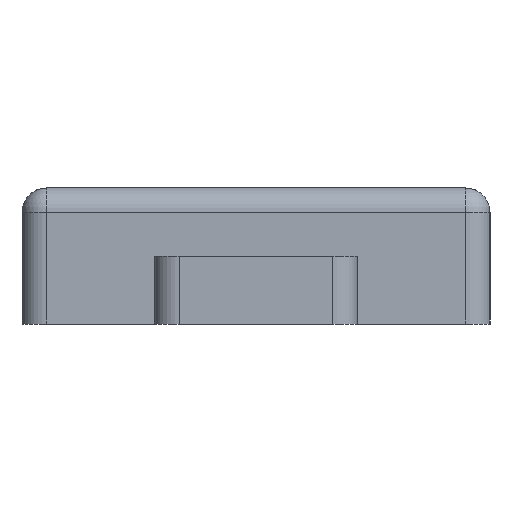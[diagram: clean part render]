
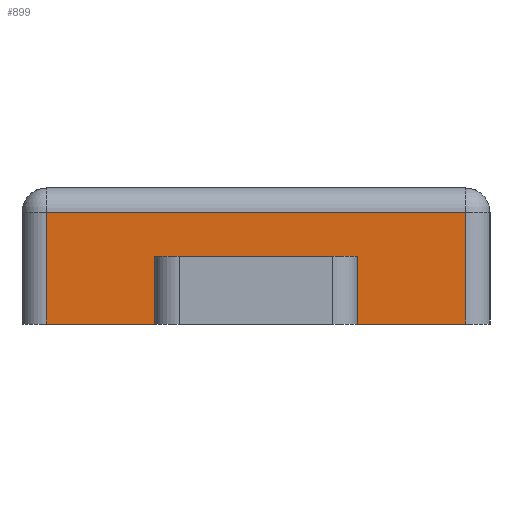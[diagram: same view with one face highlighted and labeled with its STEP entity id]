
A CAD part, left-side view. The second image highlights one B-rep face of the part: STEP entity #899.
In plain terms, the highlighted planar face has unit normal (-1, 0, 0).
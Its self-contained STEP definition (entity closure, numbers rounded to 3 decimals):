
#62 = CYLINDRICAL_SURFACE('',#63,0.6);
#63 = AXIS2_PLACEMENT_3D('',#64,#65,#66);
#64 = CARTESIAN_POINT('',(-39.25,-5.179,0.));
#65 = DIRECTION('',(0.,0.,1.));
#66 = DIRECTION('',(0.,-1.,0.));
#144 = PLANE('',#145);
#145 = AXIS2_PLACEMENT_3D('',#146,#147,#148);
#146 = CARTESIAN_POINT('',(0.,0.,0.));
#147 = DIRECTION('',(0.,0.,1.));
#148 = DIRECTION('',(1.,0.,-0.));
#161 = VERTEX_POINT('',#162);
#162 = CARTESIAN_POINT('',(-39.85,-5.179,0.));
#188 = EDGE_CURVE('',#161,#189,#191,.T.);
#189 = VERTEX_POINT('',#190);
#190 = CARTESIAN_POINT('',(-39.85,-5.179,2.76));
#191 = SURFACE_CURVE('',#192,(#196,#203),.PCURVE_S1.);
#192 = LINE('',#193,#194);
#193 = CARTESIAN_POINT('',(-39.85,-5.179,0.));
#194 = VECTOR('',#195,1.);
#195 = DIRECTION('',(0.,0.,1.));
#196 = PCURVE('',#62,#197);
#197 = DEFINITIONAL_REPRESENTATION('',(#198),#202);
#198 = LINE('',#199,#200);
#199 = CARTESIAN_POINT('',(-1.571,0.));
#200 = VECTOR('',#201,1.);
#201 = DIRECTION('',(-0.,1.));
#202 = ( GEOMETRIC_REPRESENTATION_CONTEXT(2) 
PARAMETRIC_REPRESENTATION_CONTEXT() REPRESENTATION_CONTEXT('2D SPACE',''
  ) );
#203 = PCURVE('',#204,#209);
#204 = PLANE('',#205);
#205 = AXIS2_PLACEMENT_3D('',#206,#207,#208);
#206 = CARTESIAN_POINT('',(-39.85,5.779,0.));
#207 = DIRECTION('',(1.,0.,-0.));
#208 = DIRECTION('',(0.,-1.,0.));
#209 = DEFINITIONAL_REPRESENTATION('',(#210),#214);
#210 = LINE('',#211,#212);
#211 = CARTESIAN_POINT('',(10.958,0.));
#212 = VECTOR('',#213,1.);
#213 = DIRECTION('',(0.,-1.));
#214 = ( GEOMETRIC_REPRESENTATION_CONTEXT(2) 
PARAMETRIC_REPRESENTATION_CONTEXT() REPRESENTATION_CONTEXT('2D SPACE',''
  ) );
#602 = VERTEX_POINT('',#603);
#603 = CARTESIAN_POINT('',(-39.85,5.179,0.));
#618 = CYLINDRICAL_SURFACE('',#619,0.6);
#619 = AXIS2_PLACEMENT_3D('',#620,#621,#622);
#620 = CARTESIAN_POINT('',(-39.25,5.179,0.));
#621 = DIRECTION('',(0.,0.,1.));
#622 = DIRECTION('',(-0.,1.,0.));
#630 = EDGE_CURVE('',#602,#631,#633,.T.);
#631 = VERTEX_POINT('',#632);
#632 = CARTESIAN_POINT('',(-39.85,2.5,0.));
#633 = SURFACE_CURVE('',#634,(#638,#645),.PCURVE_S1.);
#634 = LINE('',#635,#636);
#635 = CARTESIAN_POINT('',(-39.85,5.779,0.));
#636 = VECTOR('',#637,1.);
#637 = DIRECTION('',(0.,-1.,0.));
#638 = PCURVE('',#144,#639);
#639 = DEFINITIONAL_REPRESENTATION('',(#640),#644);
#640 = LINE('',#641,#642);
#641 = CARTESIAN_POINT('',(-39.85,5.779));
#642 = VECTOR('',#643,1.);
#643 = DIRECTION('',(0.,-1.));
#644 = ( GEOMETRIC_REPRESENTATION_CONTEXT(2) 
PARAMETRIC_REPRESENTATION_CONTEXT() REPRESENTATION_CONTEXT('2D SPACE',''
  ) );
#645 = PCURVE('',#204,#646);
#646 = DEFINITIONAL_REPRESENTATION('',(#647),#651);
#647 = LINE('',#648,#649);
#648 = CARTESIAN_POINT('',(0.,0.));
#649 = VECTOR('',#650,1.);
#650 = DIRECTION('',(1.,0.));
#651 = ( GEOMETRIC_REPRESENTATION_CONTEXT(2) 
PARAMETRIC_REPRESENTATION_CONTEXT() REPRESENTATION_CONTEXT('2D SPACE',''
  ) );
#669 = PLANE('',#670);
#670 = AXIS2_PLACEMENT_3D('',#671,#672,#673);
#671 = CARTESIAN_POINT('',(-38.85,2.5,0.));
#672 = DIRECTION('',(0.,-1.,0.));
#673 = DIRECTION('',(-1.,0.,0.));
#772 = VERTEX_POINT('',#773);
#773 = CARTESIAN_POINT('',(-39.85,-2.5,0.));
#787 = PLANE('',#788);
#788 = AXIS2_PLACEMENT_3D('',#789,#790,#791);
#789 = CARTESIAN_POINT('',(-42.25,-2.5,0.));
#790 = DIRECTION('',(0.,1.,0.));
#791 = DIRECTION('',(1.,0.,0.));
#799 = EDGE_CURVE('',#772,#161,#800,.T.);
#800 = SURFACE_CURVE('',#801,(#805,#812),.PCURVE_S1.);
#801 = LINE('',#802,#803);
#802 = CARTESIAN_POINT('',(-39.85,5.779,0.));
#803 = VECTOR('',#804,1.);
#804 = DIRECTION('',(0.,-1.,0.));
#805 = PCURVE('',#144,#806);
#806 = DEFINITIONAL_REPRESENTATION('',(#807),#811);
#807 = LINE('',#808,#809);
#808 = CARTESIAN_POINT('',(-39.85,5.779));
#809 = VECTOR('',#810,1.);
#810 = DIRECTION('',(0.,-1.));
#811 = ( GEOMETRIC_REPRESENTATION_CONTEXT(2) 
PARAMETRIC_REPRESENTATION_CONTEXT() REPRESENTATION_CONTEXT('2D SPACE',''
  ) );
#812 = PCURVE('',#204,#813);
#813 = DEFINITIONAL_REPRESENTATION('',(#814),#818);
#814 = LINE('',#815,#816);
#815 = CARTESIAN_POINT('',(0.,0.));
#816 = VECTOR('',#817,1.);
#817 = DIRECTION('',(1.,0.));
#818 = ( GEOMETRIC_REPRESENTATION_CONTEXT(2) 
PARAMETRIC_REPRESENTATION_CONTEXT() REPRESENTATION_CONTEXT('2D SPACE',''
  ) );
#887 = CYLINDRICAL_SURFACE('',#888,0.6);
#888 = AXIS2_PLACEMENT_3D('',#889,#890,#891);
#889 = CARTESIAN_POINT('',(-39.25,5.179,2.76));
#890 = DIRECTION('',(0.,-1.,0.));
#891 = DIRECTION('',(-1.,-0.,0.));
#899 = ADVANCED_FACE('',(#900),#204,.F.);
#900 = FACE_BOUND('',#901,.F.);
#901 = EDGE_LOOP('',(#902,#925,#946,#947,#948,#969,#995,#1014));
#902 = ORIENTED_EDGE('',*,*,#903,.T.);
#903 = EDGE_CURVE('',#602,#904,#906,.T.);
#904 = VERTEX_POINT('',#905);
#905 = CARTESIAN_POINT('',(-39.85,5.179,2.76));
#906 = SURFACE_CURVE('',#907,(#911,#918),.PCURVE_S1.);
#907 = LINE('',#908,#909);
#908 = CARTESIAN_POINT('',(-39.85,5.179,0.));
#909 = VECTOR('',#910,1.);
#910 = DIRECTION('',(0.,0.,1.));
#911 = PCURVE('',#204,#912);
#912 = DEFINITIONAL_REPRESENTATION('',(#913),#917);
#913 = LINE('',#914,#915);
#914 = CARTESIAN_POINT('',(0.6,0.));
#915 = VECTOR('',#916,1.);
#916 = DIRECTION('',(0.,-1.));
#917 = ( GEOMETRIC_REPRESENTATION_CONTEXT(2) 
PARAMETRIC_REPRESENTATION_CONTEXT() REPRESENTATION_CONTEXT('2D SPACE',''
  ) );
#918 = PCURVE('',#618,#919);
#919 = DEFINITIONAL_REPRESENTATION('',(#920),#924);
#920 = LINE('',#921,#922);
#921 = CARTESIAN_POINT('',(1.571,0.));
#922 = VECTOR('',#923,1.);
#923 = DIRECTION('',(0.,1.));
#924 = ( GEOMETRIC_REPRESENTATION_CONTEXT(2) 
PARAMETRIC_REPRESENTATION_CONTEXT() REPRESENTATION_CONTEXT('2D SPACE',''
  ) );
#925 = ORIENTED_EDGE('',*,*,#926,.T.);
#926 = EDGE_CURVE('',#904,#189,#927,.T.);
#927 = SURFACE_CURVE('',#928,(#932,#939),.PCURVE_S1.);
#928 = LINE('',#929,#930);
#929 = CARTESIAN_POINT('',(-39.85,5.179,2.76));
#930 = VECTOR('',#931,1.);
#931 = DIRECTION('',(0.,-1.,0.));
#932 = PCURVE('',#204,#933);
#933 = DEFINITIONAL_REPRESENTATION('',(#934),#938);
#934 = LINE('',#935,#936);
#935 = CARTESIAN_POINT('',(0.6,-2.76));
#936 = VECTOR('',#937,1.);
#937 = DIRECTION('',(1.,0.));
#938 = ( GEOMETRIC_REPRESENTATION_CONTEXT(2) 
PARAMETRIC_REPRESENTATION_CONTEXT() REPRESENTATION_CONTEXT('2D SPACE',''
  ) );
#939 = PCURVE('',#887,#940);
#940 = DEFINITIONAL_REPRESENTATION('',(#941),#945);
#941 = LINE('',#942,#943);
#942 = CARTESIAN_POINT('',(-0.,0.));
#943 = VECTOR('',#944,1.);
#944 = DIRECTION('',(-0.,1.));
#945 = ( GEOMETRIC_REPRESENTATION_CONTEXT(2) 
PARAMETRIC_REPRESENTATION_CONTEXT() REPRESENTATION_CONTEXT('2D SPACE',''
  ) );
#946 = ORIENTED_EDGE('',*,*,#188,.F.);
#947 = ORIENTED_EDGE('',*,*,#799,.F.);
#948 = ORIENTED_EDGE('',*,*,#949,.T.);
#949 = EDGE_CURVE('',#772,#950,#952,.T.);
#950 = VERTEX_POINT('',#951);
#951 = CARTESIAN_POINT('',(-39.85,-2.5,1.68));
#952 = SURFACE_CURVE('',#953,(#957,#963),.PCURVE_S1.);
#953 = LINE('',#954,#955);
#954 = CARTESIAN_POINT('',(-39.85,-2.5,0.));
#955 = VECTOR('',#956,1.);
#956 = DIRECTION('',(0.,-0.,1.));
#957 = PCURVE('',#204,#958);
#958 = DEFINITIONAL_REPRESENTATION('',(#959),#962);
#959 = B_SPLINE_CURVE_WITH_KNOTS('',1,(#960,#961),.UNSPECIFIED.,.F.,.F.,
  (2,2),(0.,1.68),.PIECEWISE_BEZIER_KNOTS.);
#960 = CARTESIAN_POINT('',(8.279,0.));
#961 = CARTESIAN_POINT('',(8.279,-1.68));
#962 = ( GEOMETRIC_REPRESENTATION_CONTEXT(2) 
PARAMETRIC_REPRESENTATION_CONTEXT() REPRESENTATION_CONTEXT('2D SPACE',''
  ) );
#963 = PCURVE('',#787,#964);
#964 = DEFINITIONAL_REPRESENTATION('',(#965),#968);
#965 = B_SPLINE_CURVE_WITH_KNOTS('',1,(#966,#967),.UNSPECIFIED.,.F.,.F.,
  (2,2),(0.,1.68),.PIECEWISE_BEZIER_KNOTS.);
#966 = CARTESIAN_POINT('',(2.4,0.));
#967 = CARTESIAN_POINT('',(2.4,-1.68));
#968 = ( GEOMETRIC_REPRESENTATION_CONTEXT(2) 
PARAMETRIC_REPRESENTATION_CONTEXT() REPRESENTATION_CONTEXT('2D SPACE',''
  ) );
#969 = ORIENTED_EDGE('',*,*,#970,.F.);
#970 = EDGE_CURVE('',#971,#950,#973,.T.);
#971 = VERTEX_POINT('',#972);
#972 = CARTESIAN_POINT('',(-39.85,2.5,1.68));
#973 = SURFACE_CURVE('',#974,(#978,#984),.PCURVE_S1.);
#974 = LINE('',#975,#976);
#975 = CARTESIAN_POINT('',(-39.85,2.89,1.68));
#976 = VECTOR('',#977,1.);
#977 = DIRECTION('',(0.,-1.,0.));
#978 = PCURVE('',#204,#979);
#979 = DEFINITIONAL_REPRESENTATION('',(#980),#983);
#980 = B_SPLINE_CURVE_WITH_KNOTS('',1,(#981,#982),.UNSPECIFIED.,.F.,.F.,
  (2,2),(0.39,5.39),.PIECEWISE_BEZIER_KNOTS.);
#981 = CARTESIAN_POINT('',(3.279,-1.68));
#982 = CARTESIAN_POINT('',(8.279,-1.68));
#983 = ( GEOMETRIC_REPRESENTATION_CONTEXT(2) 
PARAMETRIC_REPRESENTATION_CONTEXT() REPRESENTATION_CONTEXT('2D SPACE',''
  ) );
#984 = PCURVE('',#985,#990);
#985 = PLANE('',#986);
#986 = AXIS2_PLACEMENT_3D('',#987,#988,#989);
#987 = CARTESIAN_POINT('',(-40.55,0.,1.68));
#988 = DIRECTION('',(0.,0.,1.));
#989 = DIRECTION('',(1.,0.,-0.));
#990 = DEFINITIONAL_REPRESENTATION('',(#991),#994);
#991 = B_SPLINE_CURVE_WITH_KNOTS('',1,(#992,#993),.UNSPECIFIED.,.F.,.F.,
  (2,2),(0.39,5.39),.PIECEWISE_BEZIER_KNOTS.);
#992 = CARTESIAN_POINT('',(0.7,2.5));
#993 = CARTESIAN_POINT('',(0.7,-2.5));
#994 = ( GEOMETRIC_REPRESENTATION_CONTEXT(2) 
PARAMETRIC_REPRESENTATION_CONTEXT() REPRESENTATION_CONTEXT('2D SPACE',''
  ) );
#995 = ORIENTED_EDGE('',*,*,#996,.T.);
#996 = EDGE_CURVE('',#971,#631,#997,.T.);
#997 = SURFACE_CURVE('',#998,(#1002,#1008),.PCURVE_S1.);
#998 = LINE('',#999,#1000);
#999 = CARTESIAN_POINT('',(-39.85,2.5,0.));
#1000 = VECTOR('',#1001,1.);
#1001 = DIRECTION('',(0.,-0.,-1.));
#1002 = PCURVE('',#204,#1003);
#1003 = DEFINITIONAL_REPRESENTATION('',(#1004),#1007);
#1004 = B_SPLINE_CURVE_WITH_KNOTS('',1,(#1005,#1006),.UNSPECIFIED.,.F.,
  .F.,(2,2),(-1.68,0.),.PIECEWISE_BEZIER_KNOTS.);
#1005 = CARTESIAN_POINT('',(3.279,-1.68));
#1006 = CARTESIAN_POINT('',(3.279,0.));
#1007 = ( GEOMETRIC_REPRESENTATION_CONTEXT(2) 
PARAMETRIC_REPRESENTATION_CONTEXT() REPRESENTATION_CONTEXT('2D SPACE',''
  ) );
#1008 = PCURVE('',#669,#1009);
#1009 = DEFINITIONAL_REPRESENTATION('',(#1010),#1013);
#1010 = B_SPLINE_CURVE_WITH_KNOTS('',1,(#1011,#1012),.UNSPECIFIED.,.F.,
  .F.,(2,2),(-1.68,0.),.PIECEWISE_BEZIER_KNOTS.);
#1011 = CARTESIAN_POINT('',(1.,-1.68));
#1012 = CARTESIAN_POINT('',(1.,0.));
#1013 = ( GEOMETRIC_REPRESENTATION_CONTEXT(2) 
PARAMETRIC_REPRESENTATION_CONTEXT() REPRESENTATION_CONTEXT('2D SPACE',''
  ) );
#1014 = ORIENTED_EDGE('',*,*,#630,.F.);
